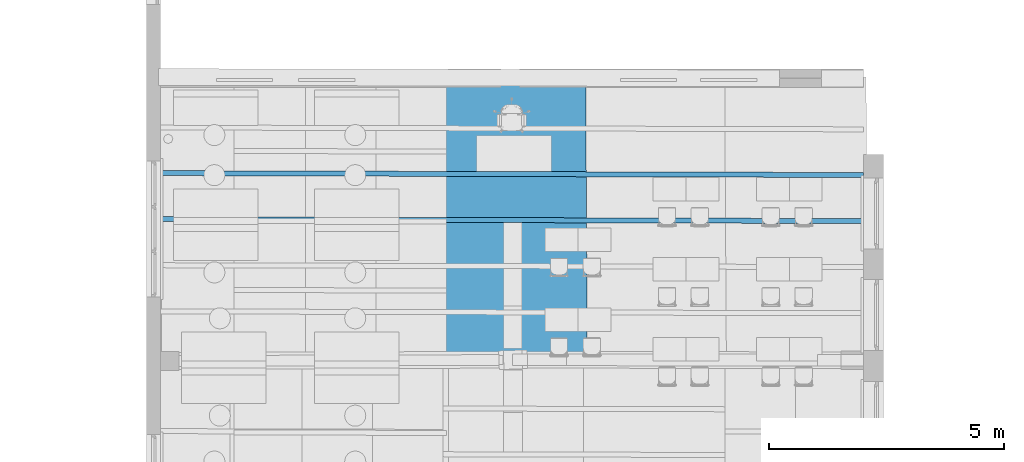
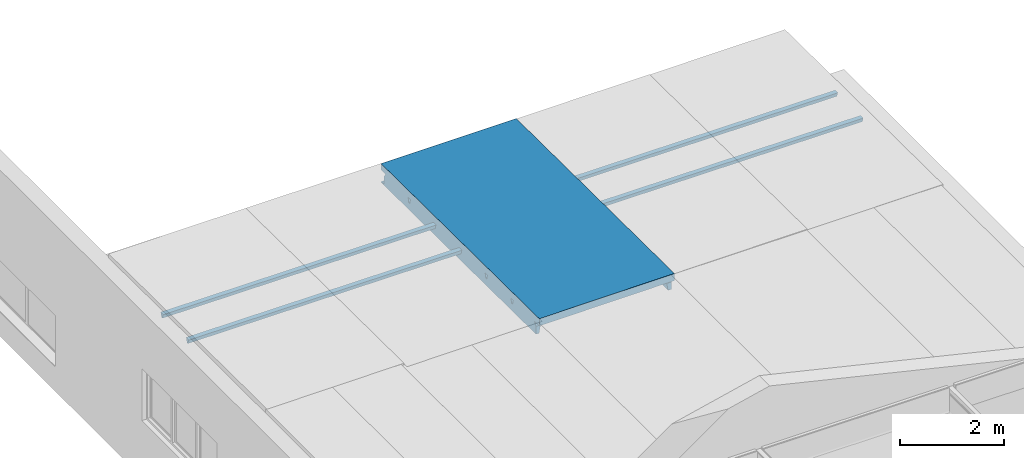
# One storey, part 26 of 153: 3 beams.
"""IFC2X3 building model written with IfcOpenShell, lengths in millimetres."""

import ifcopenshell
import ifcopenshell.guid

model = None  # the IFC model being written
_history = None  # IfcOwnerHistory: only IFC2X3 demands one
_inside = {}  # id of a spatial element -> (the spatial element, [elements in it])
_under = {}  # id of a project, library or spatial element -> (it, [spatial elements below it])
_declared = {}  # id of a project -> (the project, [libraries it declares])
_typed = {}  # id of a type object -> (the type object, [elements of that type])
_made_of = {}  # id of a material, layer set ... -> (it, [elements and type objects made of it])


def new_model(schema):
    """Start an empty IFC model of exactly this schema.

    Asked for "IFC4X3", IfcOpenShell would pick the latest addendum, in which some entities
    have other attributes; the version numbers below select the first issue.
    IFC2X3 requires an IfcOwnerHistory on every rooted entity: one is made here for all.
    """
    global model, _history
    if schema == "IFC4X3":
        model = ifcopenshell.file(schema_version=(4, 3, 0, 0))
    else:
        model = ifcopenshell.file(schema=schema)
    _inside.clear()
    _under.clear()
    _declared.clear()
    _typed.clear()
    _made_of.clear()
    _history = None
    if model.schema == "IFC2X3":
        org = make("IfcOrganization", Name="unknown")
        user = make(
            "IfcPersonAndOrganization",
            ThePerson=make("IfcPerson", FamilyName="unknown"),
            TheOrganization=org,
        )
        app = make(
            "IfcApplication",
            ApplicationDeveloper=org,
            Version="unknown",
            ApplicationFullName="unknown",
            ApplicationIdentifier="unknown",
        )
        _history = make(
            "IfcOwnerHistory",
            OwningUser=user,
            OwningApplication=app,
            ChangeAction="ADDED",
            CreationDate=0,
        )
    return model


def make(cls, **values):
    """One entity of the class cls with the attributes given. An attribute that is None is left unset."""
    return model.create_entity(
        cls, **{name: value for name, value in values.items() if value is not None}
    )


def entity(cls, *values):
    """Any entity or typed value of the class cls, its attributes in the order of the schema. None: left unset."""
    e = model.create_entity(cls)
    for i, value in enumerate(values):
        if value is not None:
            e[i] = value
    return e


def rooted(cls, **values):
    """An entity with a GlobalId (a new one), such as an element, a storey or a relation."""
    return make(cls, GlobalId=ifcopenshell.guid.new(), OwnerHistory=_history, **values)


def si_unit(unit_type, name, prefix=None):
    """IfcSIUnit, for example si_unit("LENGTHUNIT", "METRE", prefix="MILLI")."""
    return make("IfcSIUnit", UnitType=unit_type, Prefix=prefix, Name=name)


def converted_unit(unit_type, name, factor, base, dimensions=None, offset=None):
    """IfcConversionBasedUnit, such as the inch: factor (a typed value) times the base unit."""
    return make(
        "IfcConversionBasedUnit"
        if offset is None
        else "IfcConversionBasedUnitWithOffset",
        ConversionOffset=offset,
        Dimensions=None
        if dimensions is None
        else entity("IfcDimensionalExponents", *dimensions),
        UnitType=unit_type,
        Name=name,
        ConversionFactor=make(
            "IfcMeasureWithUnit", ValueComponent=factor, UnitComponent=base
        ),
    )


def derived_unit(unit_type, elements):
    """IfcDerivedUnit: a product of units, each with its exponent."""
    return make(
        "IfcDerivedUnit",
        Elements=[
            make("IfcDerivedUnitElement", Unit=unit, Exponent=power)
            for unit, power in elements
        ],
        UnitType=unit_type,
    )


def money_unit(currency):
    """IfcMonetaryUnit."""
    return make("IfcMonetaryUnit", Currency=currency)


def assignment(units):
    """IfcUnitAssignment: the units of a project."""
    return None if units is None else make("IfcUnitAssignment", Units=units)


def point(xyz):
    """IfcCartesianPoint."""
    return None if xyz is None else make("IfcCartesianPoint", Coordinates=xyz)


def direction(xyz):
    """IfcDirection."""
    return None if xyz is None else make("IfcDirection", DirectionRatios=xyz)


def frame(location, z_axis=None, x_axis=None):
    """IfcAxis2Placement3D, a coordinate frame: its origin and axes. An axis left out is left unset."""
    return make(
        "IfcAxis2Placement3D",
        Location=point(location),
        Axis=direction(z_axis),
        RefDirection=direction(x_axis),
    )


def origin_with_axes():
    """The frame at (0, 0, 0) with the z axis (0, 0, 1) and the x axis (1, 0, 0) written out."""
    return frame((0.0, 0.0, 0.0), z_axis=(0.0, 0.0, 1.0), x_axis=(1.0, 0.0, 0.0))


def place(relative_to, where):
    """IfcLocalPlacement: puts the frame where relative to a parent placement (None: the world)."""
    return make(
        "IfcLocalPlacement", PlacementRelTo=relative_to, RelativePlacement=where
    )


def context(
    kind, dimensions, precision=None, world=None, true_north=None, identifier=None
):
    """IfcGeometricRepresentationContext, for example the 3D "Model" context."""
    return make(
        "IfcGeometricRepresentationContext",
        ContextIdentifier=identifier,
        ContextType=kind,
        CoordinateSpaceDimension=dimensions,
        Precision=precision,
        WorldCoordinateSystem=world,
        TrueNorth=true_north,
    )


def subcontext(parent, identifier, kind, view, scale=None):
    """IfcGeometricRepresentationSubContext, for example "Body" below "Model"."""
    return make(
        "IfcGeometricRepresentationSubContext",
        ContextIdentifier=identifier,
        ContextType=kind,
        ParentContext=parent,
        TargetScale=scale,
        TargetView=view,
    )


def project(units=None, contexts=None):
    """IfcProject with its units and contexts."""
    return rooted(
        "IfcProject",
        Name="project",
        RepresentationContexts=contexts,
        UnitsInContext=assignment(units),
    )


def spatial(cls, under=None, at=None, **own):
    """A site, building, storey or space (cls), placed at a placement, below another one or the project."""
    s = rooted(cls, ObjectPlacement=at, **own)
    if under is not None:
        _under.setdefault(under.id(), (under, []))[1].append(s)
    return s


def faces_of(points, faces, orient=None, outer=None):
    """IfcFace entities. A face is a list of loops; a loop is a list of indices into points, from 0.

    orient and outer hold one flag for each loop. By default every Orientation is true, the
    first loop of a face is its IfcFaceOuterBound and the others are IfcFaceBound.
    """
    made = []
    for i, loops in enumerate(faces):
        bounds = []
        for j, loop in enumerate(loops):
            is_outer = j == 0 if outer is None else outer[i][j]
            bounds.append(
                make(
                    "IfcFaceOuterBound" if is_outer else "IfcFaceBound",
                    Bound=make("IfcPolyLoop", Polygon=[points[k] for k in loop]),
                    Orientation=True if orient is None else orient[i][j],
                )
            )
        made.append(make("IfcFace", Bounds=bounds))
    return made


def faceted_brep(points, faces, orient=None, outer=None, voids=None):
    """IfcFacetedBrep: a solid bounded by flat faces; with voids (closed shells), ...WithVoids."""
    shared = [point(p) for p in points]
    hull = make("IfcClosedShell", CfsFaces=faces_of(shared, faces, orient, outer))
    if voids is None:
        return make("IfcFacetedBrep", Outer=hull)
    return make(
        "IfcFacetedBrepWithVoids",
        Outer=hull,
        Voids=[
            make(cls, CfsFaces=faces_of(shared, fs, o, b)) for cls, fs, o, b in voids
        ],
    )


def shape(context_of_items, identifier, shape_type, items):
    """IfcShapeRepresentation: the items that make up one representation, for example the "Body"."""
    return make(
        "IfcShapeRepresentation",
        ContextOfItems=context_of_items,
        RepresentationIdentifier=identifier,
        RepresentationType=shape_type,
        Items=items,
    )


def material(Name=None, Category=None):
    """IfcMaterial."""
    return make("IfcMaterial", Name=Name, Category=Category)


def made_of(thing, what):
    """Note that an element or type object is made of a material, layer set ...; save() writes the relation."""
    if what is not None:
        _made_of.setdefault(what.id(), (what, []))[1].append(thing)
    return thing


def type_object(cls, material=None, **own):
    """A type object (cls), such as IfcWallType, which elements share."""
    return made_of(rooted(cls, **own), material)


def element(
    cls,
    number,
    at=None,
    inside=None,
    cuts=None,
    type_object=None,
    material=None,
    context=None,
    identifier="Body",
    shape_type=None,
    held_by="IfcProductDefinitionShape",
    body=None,
    shapes=None,
    **own,
):
    """One element of the class cls, such as IfcWall. Its Tag is "e" and its number.

    at: its placement. inside: the storey or other place that contains it. cuts: it is an
    opening in that element (IfcRelVoidsElement). A single representation is given by context,
    identifier, shape_type and body (its items); several are given by shapes. held_by: the class
    of the entity that holds the representations. save() writes the other relations.
    """
    e = rooted(cls, Tag="e%d" % number, ObjectPlacement=at, **own)
    if body is not None:
        shapes = [shape(context, identifier, shape_type, body)]
    if shapes is not None:
        e.Representation = make(held_by, Representations=shapes)
    if inside is not None:
        _inside.setdefault(inside.id(), (inside, []))[1].append(e)
    if cuts is not None:
        rooted(
            "IfcRelVoidsElement", RelatingBuildingElement=cuts, RelatedOpeningElement=e
        )
    if type_object is not None:
        _typed.setdefault(type_object.id(), (type_object, []))[1].append(e)
    return made_of(e, material)


def aggregate(whole, parts):
    """IfcRelAggregates: a whole, such as a stair, and the parts it consists of."""
    return rooted("IfcRelAggregates", RelatingObject=whole, RelatedObjects=parts)


def save(model, path):
    """Write the relations noted so far, then the file.

    IfcRelAggregates (storeys below a building ...), IfcRelContainedInSpatialStructure (elements
    in a storey), IfcRelDefinesByType, IfcRelAssociatesMaterial and IfcRelDeclares: one each for
    every whole, place, type object, material and project.
    """
    for whole, parts in _under.values():
        aggregate(whole, parts)
    for where, things in _inside.values():
        rooted(
            "IfcRelContainedInSpatialStructure",
            RelatedElements=things,
            RelatingStructure=where,
        )
    for kind, things in _typed.values():
        rooted("IfcRelDefinesByType", RelatedObjects=things, RelatingType=kind)
    for what, things in _made_of.values():
        rooted("IfcRelAssociatesMaterial", RelatedObjects=things, RelatingMaterial=what)
    for by, libraries in _declared.values():
        rooted("IfcRelDeclares", RelatingContext=by, RelatedDefinitions=libraries)
    model.write(path)


model = new_model("IFC2X3")

# Units and contexts
model_context = context("Model", 3, precision=0.01, world=origin_with_axes(), true_north=direction((0.0, 1.0)))
body_context = subcontext(model_context, "Body", "Model", "MODEL_VIEW")
ifc_project = project(units=[si_unit("LENGTHUNIT", "METRE", prefix="MILLI"), si_unit("AREAUNIT", "SQUARE_METRE"), si_unit("VOLUMEUNIT", "CUBIC_METRE"), converted_unit("PLANEANGLEUNIT", "DEGREE", entity("IfcPlaneAngleMeasure", 0.0174532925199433), si_unit("PLANEANGLEUNIT", "RADIAN"), dimensions=[0, 0, 0, 0, 0, 0, 0]), money_unit("EUR"), converted_unit("TIMEUNIT", "Year", entity("IfcTimeMeasure", 31557600.0), si_unit("TIMEUNIT", "SECOND"), dimensions=[0, 0, 1, 0, 0, 0, 0]), si_unit("MASSUNIT", "GRAM", prefix="KILO"), si_unit("THERMODYNAMICTEMPERATUREUNIT", "DEGREE_CELSIUS"), si_unit("LUMINOUSINTENSITYUNIT", "LUMEN"), si_unit("ENERGYUNIT", "JOULE", prefix="MEGA"), derived_unit("THERMALCONDUCTANCEUNIT", [(si_unit("POWERUNIT", "WATT"), 1), (si_unit("LENGTHUNIT", "METRE"), -1), (si_unit("THERMODYNAMICTEMPERATUREUNIT", "KELVIN"), -1)]), derived_unit("SPECIFICHEATCAPACITYUNIT", [(si_unit("ENERGYUNIT", "JOULE"), 1), (si_unit("MASSUNIT", "GRAM", prefix="KILO"), -1), (si_unit("THERMODYNAMICTEMPERATUREUNIT", "KELVIN"), -1)]), derived_unit("MASSDENSITYUNIT", [(si_unit("MASSUNIT", "GRAM", prefix="KILO"), 1), (si_unit("VOLUMEUNIT", "CUBIC_METRE"), -1)])], contexts=[model_context])

# Site, building, storey
site_placement = place(None, frame((0.0, 0.0, 8650.0), z_axis=(0.0, 0.0, 1.0), x_axis=(1.0, 0.0, 0.0)))
site = spatial("IfcSite", under=ifc_project, at=site_placement, Name="43301:001:0844", CompositionType="ELEMENT")
building_placement = place(site_placement, origin_with_axes())
building = spatial("IfcBuilding", under=site, at=building_placement, Name="Kuressaare Ametikooli tuulikute mehaanikute õppekorpus", CompositionType="ELEMENT")
storey_placement = place(building_placement, frame((0.0, 0.0, 4100.0), z_axis=(0.0, 0.0, 1.0), x_axis=(1.0, 0.0, 0.0)))
storey = spatial("IfcBuildingStorey", under=building, at=storey_placement, Name="2.korrus", CompositionType="ELEMENT", Elevation=4100.0)

# Beams
ifc_material = material(Name="GENEERILINE - KONSTRUKTRIOON")
beam_type_1 = type_object("IfcBeamType", Name="Precast Single Tee 2 107 x 102", PredefinedType="NOTDEFINED")
beam_1_placement = place(storey_placement, frame((88256.15780220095, 36024.72507709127, 2805.133663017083), z_axis=(0.0, 0.0, 1.0), x_axis=(-0.002672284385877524, -0.9999964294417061, 0.0)))
element("IfcBeam", 1, at=beam_1_placement, inside=storey, type_object=beam_type_1, material=ifc_material, context=body_context, shape_type="Brep", body=[
    faceted_brep([(45.31502884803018, 0.0, -5.574334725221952), (45.31502884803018, 14968.80935978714, -5.574334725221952), (53.51387546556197, 14968.80935978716, 0.0), (53.51387546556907, 0.0, 0.0), (40.74041549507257, 0.0, -14.37019773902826), (40.74041549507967, 14968.80935978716, -14.37019773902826), (20.00045776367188, 14968.80935978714, -101.9474782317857), (-19.99954223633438, 14968.80935978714, -101.9474782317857), (-40.74046173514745, 14968.80935978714, -14.37000248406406), (-45.31509550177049, 14968.80935978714, -5.574259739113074), (-53.51387546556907, 14968.80935978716, 0.0), (-53.51387546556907, 0.0, 0.0), (-45.31509550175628, 0.0, -5.574259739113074), (-40.74046173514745, 0.0, -14.37000248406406), (-19.99954223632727, 0.0, -101.9474782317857), (20.00045776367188, 0.0, -101.9474782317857)], [[[0, 1, 2, 3]], [[4, 5, 1, 0]], [[2, 1, 5, 6, 7, 8, 9, 10]], [[3, 2, 10, 11]], [[4, 0, 3, 11, 12, 13, 14, 15]], [[15, 6, 5, 4]], [[14, 7, 6, 15]], [[13, 8, 7, 14]], [[12, 9, 8, 13]], [[11, 10, 9, 12]]]),
])
beam_2_placement = place(storey_placement, frame((88256.15780220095, 35043.81523054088, 2805.133663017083), z_axis=(0.0, 0.0, 1.0), x_axis=(-0.002672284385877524, -0.9999964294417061, 0.0)))
element("IfcBeam", 2, at=beam_2_placement, inside=storey, type_object=beam_type_1, material=ifc_material, context=body_context, shape_type="Brep", body=[
    faceted_brep([(45.31502884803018, 0.0, -5.574334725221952), (45.31502884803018, 14968.80935978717, -5.574334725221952), (53.51387546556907, 14968.80935978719, 0.0), (53.51387546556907, 0.0, 0.0), (40.74041549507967, 0.0, -14.37019773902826), (40.74041549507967, 14968.80935978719, -14.37019773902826), (20.00045776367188, 14968.80935978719, -101.9474782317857), (-19.99954223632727, 14968.80935978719, -101.9474782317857), (-40.74046173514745, 14968.80935978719, -14.37000248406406), (-45.31509550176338, 14968.80935978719, -5.574259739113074), (-53.51387546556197, 14968.80935978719, 0.0), (-53.51387546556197, 0.0, 0.0), (-45.31509550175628, 0.0, -5.574259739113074), (-40.74046173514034, 0.0, -14.37000248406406), (-19.99954223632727, 0.0, -101.9474782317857), (20.00045776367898, 0.0, -101.9474782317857)], [[[0, 1, 2, 3]], [[4, 5, 1, 0]], [[2, 1, 5, 6, 7, 8, 9, 10]], [[3, 2, 10, 11]], [[4, 0, 3, 11, 12, 13, 14, 15]], [[15, 6, 5, 4]], [[14, 7, 6, 15]], [[13, 8, 7, 14]], [[12, 9, 8, 13]], [[11, 10, 9, 12]]]),
])
beam_type_2 = type_object("IfcBeamType", Name="Precast Double Tee 4 3012 x 440", PredefinedType="NOTDEFINED")
beam_3_placement = place(storey_placement, frame((95804.2723981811, 38067.25329041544, 2975.0), z_axis=(0.0, 0.0, 1.0), x_axis=(-0.9999823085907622, -0.005948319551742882, 0.0)))
element("IfcBeam", 3, at=beam_3_placement, inside=storey, type_object=beam_type_2, material=ifc_material, context=body_context, shape_type="Brep", body=[
    faceted_brep([(1434.907617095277, 5903.101737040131, -434.9999999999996), (1434.907617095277, 5902.914787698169, -434.9999999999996), (1435.817226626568, 5902.911879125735, -440.0001340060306), (1435.817226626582, 0.0, -440.0001340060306), (1432.194608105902, 0.0, -420.0865585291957), (1432.194608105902, 109.0732026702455, -420.0865585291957), (1399.892011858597, 109.3363521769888, -242.5188171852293), (1394.00150495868, 127.775021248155, -210.1386333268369), (1394.00150495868, 1043.664185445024, -210.1386333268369), (1405.221270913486, 1058.174499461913, -271.8138152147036), (1405.221270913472, 1098.175985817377, -271.8138152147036), (1394.00150495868, 1112.879103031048, -210.1386333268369), (1394.001504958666, 2016.143467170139, -210.1386333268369), (1405.221270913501, 2030.653781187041, -271.8138152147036), (1405.221270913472, 2070.655267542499, -271.8138152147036), (1394.00150495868, 2085.358384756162, -210.1386333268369), (1394.00150495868, 2997.086260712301, -210.1386333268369), (1405.221270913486, 3011.596574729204, -271.8138152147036), (1405.221270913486, 3051.598061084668, -271.8138152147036), (1394.001504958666, 3066.301178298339, -210.1386333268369), (1394.001504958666, 3977.655173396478, -210.1386333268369), (1405.221270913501, 3992.165487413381, -271.8138152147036), (1405.221270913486, 4032.166973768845, -271.8138152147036), (1394.00150495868, 4046.870090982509, -210.1386333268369), (1394.00150495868, 4960.381257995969, -210.1386333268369), (1405.221270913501, 4974.891572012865, -271.8138152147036), (1405.221270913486, 5014.89305836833, -271.8138152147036), (1394.001504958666, 5029.596175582, -210.1386333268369), (1394.001504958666, 5871.532539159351, -210.1386333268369), (1396.938809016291, 5883.968766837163, -226.2850273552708), (1402.787815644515, 5903.176552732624, -258.4370837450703), (1505.817226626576, 5902.688046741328, -434.9999999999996), (1505.817226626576, 5902.935380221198, -434.9999999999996), (1505.817226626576, 5902.688046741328, -440.0001340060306), (1505.817226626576, 0.0, -440.0001340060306), (1505.817226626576, 0.0, -420.0865585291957), (1505.817226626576, 108.474669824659, -420.0865585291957), (1505.81722662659, 108.4752075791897, -242.5188171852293), (1505.817226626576, 134.0680429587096, -197.4581574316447), (1389.347021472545, 135.0149156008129, -197.4581574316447), (1387.903755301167, 138.0630517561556, -193.5261847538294), (1387.903755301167, 1039.782291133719, -193.5261847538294), (1505.817226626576, 1036.565586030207, -184.2363394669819), (1505.81722662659, 1057.307276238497, -271.8138152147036), (1379.592022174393, 1037.653755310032, -184.2363394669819), (1505.817226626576, 1097.308762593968, -271.8138152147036), (1505.81722662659, 1118.049490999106, -184.2365347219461), (1379.592196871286, 1119.137658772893, -184.2365347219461), (1387.903755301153, 1116.865959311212, -193.5261847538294), (1387.903755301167, 2012.26157285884, -193.5261847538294), (1379.592022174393, 2010.133037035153, -184.2363394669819), (1505.81722662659, 2009.044867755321, -184.2363394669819), (1505.81722662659, 2029.786557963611, -271.8138152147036), (1505.817226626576, 2069.788044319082, -271.8138152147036), (1387.903755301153, 2089.345241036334, -193.5261847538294), (1505.81722662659, 2090.528772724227, -184.2365347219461), (1379.5921968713, 2091.616940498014, -184.2365347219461), (1387.903755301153, 2993.204366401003, -193.5261847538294), (1379.592022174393, 2991.075830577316, -184.2363394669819), (1505.817226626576, 2989.987661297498, -184.2363394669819), (1505.81722662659, 3010.729351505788, -271.8138152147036), (1505.81722662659, 3050.730837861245, -271.8138152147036), (1379.5921968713, 3072.559734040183, -184.2365347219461), (1387.903755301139, 3070.288034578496, -193.5261847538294), (1505.817226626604, 3071.471566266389, -184.2365347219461), (1387.903755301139, 3973.773279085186, -193.5261847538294), (1379.592022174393, 3971.6447432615, -184.2363394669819), (1505.81722662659, 3970.556573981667, -184.2363394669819), (1505.81722662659, 3991.298264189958, -271.8138152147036), (1505.81722662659, 4031.299750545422, -271.8138152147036), (1505.81722662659, 4052.040478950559, -184.2365347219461), (1379.592196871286, 4053.128646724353, -184.2365347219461), (1387.903755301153, 4050.85694726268, -193.5261847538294), (1387.903755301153, 4956.499363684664, -193.5261847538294), (1379.592022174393, 4954.370827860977, -184.2363394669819), (1505.817226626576, 4953.282658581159, -184.2363394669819), (1505.81722662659, 4974.024348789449, -271.8138152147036), (1505.817226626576, 5014.025835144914, -271.8138152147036), (1505.81722662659, 5034.766563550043, -184.2365347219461), (1379.592196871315, 5035.85473132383, -184.2365347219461), (1387.903755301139, 5033.583031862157, -193.5261847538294), (1387.903755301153, 5858.103905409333, -193.5261847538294), (1389.037136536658, 5861.121449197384, -196.6139201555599), (1505.81722662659, 5860.84747837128, -196.6139201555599), (1505.81722662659, 5883.713333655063, -226.2850273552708), (1505.817226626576, 5902.934841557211, -258.4370837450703), (1505.817226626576, 5834.653995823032, -169.8347433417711), (1505.817226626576, 6030.788106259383, -169.8347433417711), (1505.817226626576, 6030.788106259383, 0.0), (1505.817226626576, 0.0, 0.0), (1505.817226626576, 0.0, -144.9098486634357), (1505.817226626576, 176.7044764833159, -144.9098486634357), (1505.817226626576, 165.7415663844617, -156.4427065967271), (1505.81722662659, 4948.707854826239, -175.4405967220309), (1505.817226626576, 4940.5087702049, -169.8663369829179), (1505.817226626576, 5047.540498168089, -169.8663369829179), (1505.817226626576, 5039.341346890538, -175.4406717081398), (1505.817226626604, 3957.782685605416, -169.8663369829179), (1505.81722662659, 4064.814413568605, -169.8663369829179), (1505.81722662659, 4056.615262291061, -175.4406717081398), (1505.817226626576, 3965.981770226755, -175.4405967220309), (1505.81722662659, 3084.245500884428, -169.8663369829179), (1505.81722662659, 3076.046349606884, -175.4406717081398), (1505.81722662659, 2985.412857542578, -175.4405967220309), (1505.81722662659, 2977.213772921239, -169.8663369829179), (1505.81722662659, 2095.103556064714, -175.4406717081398), (1505.817226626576, 2004.470064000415, -175.4405967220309), (1505.81722662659, 1996.270979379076, -169.8663369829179), (1505.81722662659, 2103.302707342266, -169.8663369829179), (1505.81722662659, 1031.990782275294, -175.4405967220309), (1505.81722662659, 1023.791697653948, -169.8663369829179), (1505.81722662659, 1130.823425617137, -169.8663369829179), (1505.81722662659, 1122.624274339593, -175.4406717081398), (-1388.022650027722, 157.5942126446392, -197.4581574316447), (-1377.569867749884, 167.8461432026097, -184.0724353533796), (-1360.128065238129, 175.8642656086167, -173.505793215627), (-1340.070370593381, 178.5447938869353, -169.8234995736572), (1342.636896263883, 155.8730216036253, -170.9398142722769), (1360.269640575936, 154.5732979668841, -172.4372542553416), (1376.104194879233, 148.3432890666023, -180.3380699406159), (-1505.817226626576, 190.2253755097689, -156.4427065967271), (-1505.817226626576, 158.5518520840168, -197.4581574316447), (1376.104194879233, 1035.656272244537, -180.3380699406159), (1366.288840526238, 1033.193636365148, -175.4405967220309), (1376.104194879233, 1121.195344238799, -180.3380699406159), (1366.288990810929, 1123.827127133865, -175.4406717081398), (1376.104194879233, 2008.135553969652, -180.3380699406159), (1366.288840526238, 2005.672918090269, -175.4405967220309), (1366.288990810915, 2096.306408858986, -175.4406717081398), (1376.104194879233, 2093.674625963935, -180.3380699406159), (1376.104194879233, 2989.078347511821, -180.3380699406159), (1366.288840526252, 2986.615711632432, -175.4405967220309), (1376.104194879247, 3074.61741950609, -180.3380699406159), (1376.104194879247, 3969.647260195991, -180.3380699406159), (1366.288990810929, 3077.249202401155, -175.4406717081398), (1366.288840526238, 3967.184624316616, -175.4405967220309), (1366.288990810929, 4057.818115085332, -175.4406717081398), (1376.104194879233, 4055.186332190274, -180.3380699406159), (1376.104194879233, 4952.373344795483, -180.3380699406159), (1366.288840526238, 4949.910708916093, -175.4405967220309), (1366.288990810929, 5040.544199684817, -175.4406717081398), (1376.104194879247, 5037.912416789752, -180.3380699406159), (1376.104194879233, 5845.231913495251, -180.3380699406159), (1342.636896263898, 5836.117725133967, -170.9398142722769), (76.76410013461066, 5838.57228605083, -170.4130656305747), (76.76277304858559, 5838.006615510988, -169.8347433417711), (1360.269640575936, 5837.541047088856, -172.4372542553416), (77.29355510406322, 6030.788106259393, -169.8347433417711), (77.18003974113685, 6015.866582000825, -169.8347433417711), (-1505.81722662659, 6030.788106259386, -169.8235593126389), (-1505.81722662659, 6030.788106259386, 0.0), (77.29355510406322, 6030.788106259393, -169.8235593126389), (-1505.817226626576, 8.957240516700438, 0.0), (2.700062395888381e-10, 0.0, 0.0), (-7.602807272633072e-09, 0.0, -144.9098486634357), (-1505.817226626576, 8.957240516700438, -144.9098486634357), (-1505.817226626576, 201.1882856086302, -144.9098486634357), (1360.26964057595, 4945.545033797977, -172.4372542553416), (1342.636896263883, 4943.494483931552, -170.9398142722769), (-1237.124284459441, 4964.155273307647, -169.8663369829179), (-1237.124284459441, 5071.187001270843, -169.8663369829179), (1342.636896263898, 5047.368301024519, -170.9398142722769), (1360.26964057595, 5045.013744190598, -172.4372542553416), (-1237.124284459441, 4088.460916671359, -169.8663369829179), (-1237.124284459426, 3981.429188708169, -169.8663369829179), (1342.636896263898, 4064.642216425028, -170.9398142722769), (1360.26964057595, 4062.287659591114, -172.4372542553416), (1360.26964057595, 3962.818949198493, -172.4372542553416), (1342.636896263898, 3960.768399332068, -170.9398142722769), (-1237.124284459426, 3107.892003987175, -169.8663369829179), (1342.636896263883, 3084.073303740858, -170.9398142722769), (1360.26964057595, 3081.718746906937, -172.4372542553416), (1342.636896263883, 2980.199486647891, -170.9398142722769), (-1237.124284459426, 3000.860276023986, -169.8663369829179), (1360.26964057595, 2982.250036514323, -172.4372542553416), (-1237.124284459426, 2019.91748248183, -169.8663369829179), (1360.26964057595, 2001.307242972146, -172.4372542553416), (1342.636896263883, 1999.256693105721, -170.9398142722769), (-1237.124284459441, 2126.949210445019, -169.8663369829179), (1342.636896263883, 2103.130510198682, -170.9398142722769), (1360.26964057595, 2100.775953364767, -172.4372542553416), (1360.269640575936, 1028.827961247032, -172.4372542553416), (1342.636896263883, 1026.777411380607, -170.9398142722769), (-1237.124284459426, 1047.438200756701, -169.8663369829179), (-1237.124284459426, 1154.469928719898, -169.8663369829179), (1360.26964057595, 1128.296671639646, -172.4372542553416), (1342.636896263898, 1130.651228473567, -170.9398142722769), (-1390.121046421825, 156.0850480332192, -200.145341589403), (-1390.121046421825, 1065.2989113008, -200.145341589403), (-1377.697858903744, 1061.423953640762, -184.2363394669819), (-1377.569867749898, 1061.337601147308, -184.0724353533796), (-1360.128065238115, 1053.851813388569, -173.505793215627), (-1363.321744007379, 1056.725215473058, -175.4405967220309), (-1340.303708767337, 1048.327695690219, -169.8663369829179), (-1340.303708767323, 1155.359423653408, -169.8663369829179), (-1360.128065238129, 1150.17714028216, -173.505793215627), (-1360.128065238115, 2026.331095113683, -173.505793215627), (-1340.303708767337, 2020.806977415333, -169.8663369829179), (-1340.303708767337, 2127.83870537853, -169.8663369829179), (-1360.128065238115, 2122.656422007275, -173.505793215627), (-1360.128065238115, 3007.273888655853, -173.505793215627), (-1340.303708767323, 3001.749770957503, -169.8663369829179), (-1340.303708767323, 3108.781498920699, -169.8663369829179), (-1360.128065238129, 3103.599215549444, -173.505793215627), (-1360.128065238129, 3987.842801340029, -173.505793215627), (-1340.303708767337, 3982.318683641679, -169.8663369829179), (-1340.303708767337, 4089.350411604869, -169.8663369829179), (-1360.128065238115, 4084.168128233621, -173.505793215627), (-1360.128065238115, 4970.5688859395, -173.505793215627), (-1340.303708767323, 4965.04476824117, -169.8663369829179), (-1340.303708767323, 5072.07649620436, -169.8663369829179), (-1360.128065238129, 5066.894212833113, -173.505793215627), (-1360.128065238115, 5852.489179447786, -173.505793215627), (-1340.070370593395, 5848.836345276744, -169.8235593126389), (75.83167511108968, 5838.624885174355, -170.4126776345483), (77.18003974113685, 6015.866582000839, -170.4132387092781), (-1505.81722662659, 5850.097263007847, -169.8235593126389), (-1505.81722662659, 5861.060128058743, -181.3564172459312), (-1505.81722662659, 5892.733521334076, -222.3718680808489), (-1505.81722662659, 5918.32625154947, -267.4325278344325), (-1505.81722662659, 5918.326774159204, -440.0001340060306), (-1505.817226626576, 0.0, -440.0001340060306), (-1505.817226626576, 0.0, -420.0865585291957), (-1505.817226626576, 132.9584789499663, -420.0865585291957), (-1505.817226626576, 132.9590167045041, -242.5188171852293), (-1505.817226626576, 5060.729429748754, -184.2365347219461), (-1505.81722662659, 5065.304213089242, -175.4406717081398), (-1505.817226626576, 5073.503364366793, -169.8663369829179), (-1505.817226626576, 4966.471636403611, -169.8663369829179), (-1505.817226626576, 4974.670721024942, -175.4405967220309), (-1505.817226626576, 4979.245524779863, -184.2363394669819), (-1505.81722662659, 4999.987214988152, -271.8138152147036), (-1505.817226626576, 5039.98870134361, -271.8138152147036), (-1505.817226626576, 4082.578128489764, -175.4406717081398), (-1505.81722662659, 4090.777279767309, -169.8663369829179), (-1505.81722662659, 3983.74555180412, -169.8663369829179), (-1505.81722662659, 3991.944636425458, -175.4405967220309), (-1505.81722662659, 3996.519440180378, -184.2363394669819), (-1505.817226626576, 4017.261130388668, -271.8138152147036), (-1505.817226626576, 4057.262616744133, -271.8138152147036), (-1505.817226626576, 4078.003345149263, -184.2365347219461), (-1505.817226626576, 3110.208367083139, -169.8663369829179), (-1505.817226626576, 3003.17663911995, -169.8663369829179), (-1505.817226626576, 3011.375723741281, -175.4405967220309), (-1505.817226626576, 3015.950527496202, -184.2363394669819), (-1505.81722662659, 3036.692217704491, -271.8138152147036), (-1505.817226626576, 3076.693704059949, -271.8138152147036), (-1505.817226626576, 3097.434432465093, -184.2365347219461), (-1505.81722662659, 3102.009215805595, -175.4406717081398), (-1505.817226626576, 2022.23384557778, -169.8663369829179), (-1505.817226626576, 2030.432930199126, -175.4405967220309), (-1505.817226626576, 2035.007733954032, -184.2363394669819), (-1505.817226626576, 2055.749424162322, -271.8138152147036), (-1505.81722662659, 2095.750910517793, -271.8138152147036), (-1505.81722662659, 2116.491638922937, -184.2365347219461), (-1505.817226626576, 2121.066422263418, -175.4406717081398), (-1505.817226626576, 2129.265573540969, -169.8663369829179), (-1505.817226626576, 1057.95364847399, -175.4405967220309), (-1505.817226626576, 1062.528452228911, -184.2363394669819), (-1505.817226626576, 1083.2701424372, -271.8138152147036), (-1505.81722662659, 1123.271628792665, -271.8138152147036), (-1505.81722662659, 1144.012357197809, -184.2365347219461), (-1505.817226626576, 1148.587140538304, -175.4406717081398), (-1505.817226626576, 1156.786291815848, -169.8663369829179), (-1505.817226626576, 1049.754563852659, -169.8663369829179), (-1399.746208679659, 132.0966867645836, -242.5188171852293), (-1396.144696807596, 145.0683931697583, -219.628309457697), (75.82741514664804, 5838.064915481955, -169.8235593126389), (-1396.144696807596, 1069.965151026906, -219.628309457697), (-1404.355380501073, 1082.395454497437, -271.8138152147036), (-1363.321867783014, 1147.358708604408, -175.4406717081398), (-1377.569867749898, 2033.816882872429, -184.0724353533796), (-1363.321744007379, 2029.204497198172, -175.4405967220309), (-1377.569867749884, 1142.992104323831, -184.0724353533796), (-1363.321867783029, 2119.837990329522, -175.4406717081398), (-1377.569867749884, 2115.471386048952, -184.0724353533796), (-1377.569867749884, 3014.759676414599, -184.0724353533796), (-1363.321744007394, 3010.147290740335, -175.4405967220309), (-1363.321867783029, 3100.780783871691, -175.4406717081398), (-1377.569867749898, 3096.414179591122, -184.0724353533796), (-1377.569867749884, 3995.328589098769, -184.0724353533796), (-1363.321744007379, 3990.716203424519, -175.4405967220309), (-1363.321867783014, 4081.349696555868, -175.4406717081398), (-1377.569867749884, 4076.983092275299, -184.0724353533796), (-1377.569867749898, 4978.05467369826, -184.0724353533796), (-1363.321744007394, 4973.442288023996, -175.4405967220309), (-1363.321867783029, 5064.075781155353, -175.4406717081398), (-1377.569867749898, 5059.709176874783, -184.0724353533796), (-1377.569867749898, 5862.181880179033, -184.0724353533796), (-1373.086678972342, 5860.050381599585, -181.3564172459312), (-1390.121046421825, 5874.689355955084, -200.145341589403), (-1396.144696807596, 5889.780528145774, -219.628309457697), (-1396.576358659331, 5891.902472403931, -222.3718680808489), (-1403.666044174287, 5917.549137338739, -267.4325278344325), (-1430.817223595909, 5917.756212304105, -440.0001340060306), (-1430.817223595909, 0.0, -440.0001340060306), (-1427.684091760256, 0.0, -420.0865585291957), (-1427.684091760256, 132.323276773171, -420.0865585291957), (-1377.698011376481, 5059.624932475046, -184.2365347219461), (-1377.697858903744, 4978.141026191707, -184.2363394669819), (-1396.144696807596, 4986.682223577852, -219.628309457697), (-1404.355380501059, 4999.112527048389, -271.8138152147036), (-1390.121046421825, 4982.015983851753, -200.145341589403), (-1404.355380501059, 5039.114013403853, -271.8138152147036), (-1390.121046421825, 5055.964383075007, -200.145341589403), (-1396.144696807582, 5051.402205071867, -219.628309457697), (-1377.697858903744, 3995.414941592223, -184.2363394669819), (-1404.355380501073, 4016.386442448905, -271.8138152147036), (-1390.121046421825, 3999.289899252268, -200.145341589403), (-1396.14469680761, 4003.956138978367, -219.628309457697), (-1404.355380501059, 4056.387928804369, -271.8138152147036), (-1377.698011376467, 4076.898847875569, -184.2365347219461), (-1396.144696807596, 4068.676120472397, -219.628309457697), (-1390.121046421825, 4073.238298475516, -200.145341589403), (-1377.697858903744, 3014.846028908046, -184.2363394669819), (-1390.121046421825, 3018.720986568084, -200.145341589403), (-1396.144696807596, 3023.387226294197, -219.628309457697), (-1404.355380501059, 3035.817529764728, -271.8138152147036), (-1404.355380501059, 3075.819016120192, -271.8138152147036), (-1396.144696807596, 3088.107207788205, -219.628309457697), (-1390.121046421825, 3092.669385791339, -200.145341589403), (-1377.698011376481, 3096.329935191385, -184.2365347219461), (-1377.697858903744, 2033.903235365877, -184.2363394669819), (-1390.121046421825, 2037.778193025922, -200.145341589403), (-1396.144696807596, 2042.444432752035, -219.628309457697), (-1404.355380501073, 2054.874736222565, -271.8138152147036), (-1404.355380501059, 2094.876222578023, -271.8138152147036), (-1396.144696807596, 2107.16441424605, -219.628309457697), (-1390.121046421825, 2111.72659224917, -200.145341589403), (-1377.698011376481, 2115.387141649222, -184.2365347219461), (-1404.355380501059, 1122.396940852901, -271.8138152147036), (-1396.14469680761, 1134.685132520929, -219.628309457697), (-1390.121046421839, 1139.247310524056, -200.145341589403), (-1377.698011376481, 1142.907859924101, -184.2365347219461)], [[[0, 1, 2, 3, 4, 5, 6, 7, 8, 9, 10, 11, 12, 13, 14, 15, 16, 17, 18, 19, 20, 21, 22, 23, 24, 25, 26, 27, 28, 29, 30]], [[31, 1, 0, 32]], [[33, 2, 1, 31]], [[3, 2, 33, 34]], [[4, 3, 34, 35]], [[4, 35, 36, 5]], [[5, 36, 37, 6]], [[38, 39, 7, 6, 37]], [[8, 7, 39, 40, 41]], [[42, 43, 9, 8, 41, 44]], [[10, 9, 43, 45]], [[11, 10, 45, 46, 47, 48]], [[11, 48, 49, 12]], [[50, 51, 52, 13, 12, 49]], [[53, 14, 13, 52]], [[54, 15, 14, 53, 55, 56]], [[16, 15, 54, 57]], [[57, 58, 59, 60, 17, 16]], [[60, 61, 18, 17]], [[62, 63, 19, 18, 61, 64]], [[65, 20, 19, 63]], [[20, 65, 66, 67, 68, 21]], [[21, 68, 69, 22]], [[70, 71, 72, 23, 22, 69]], [[72, 73, 24, 23]], [[25, 24, 73, 74, 75, 76]], [[26, 25, 76, 77]], [[77, 78, 79, 80, 27, 26]], [[81, 82, 28, 27, 80]], [[82, 83, 84, 29, 28]], [[85, 30, 29, 84]], [[85, 32, 0, 30]], [[33, 31, 32, 85, 84, 83, 86, 87, 88, 89, 90, 91, 92, 38, 37, 36, 35, 34], [93, 94, 95, 96, 78, 77, 76, 75], [97, 98, 99, 70, 69, 68, 67, 100], [101, 102, 64, 61, 60, 59, 103, 104], [105, 55, 53, 52, 51, 106, 107, 108], [46, 45, 43, 42, 109, 110, 111, 112]], [[113, 114, 115, 116, 117, 118, 119, 40, 39, 38, 92, 120, 121]], [[41, 40, 119, 122, 44]], [[123, 109, 42, 44, 122]], [[124, 47, 46, 112, 125]], [[126, 50, 49, 48, 47, 124]], [[126, 127, 106, 51, 50]], [[128, 129, 56, 55, 105]], [[129, 130, 58, 57, 54, 56]], [[58, 130, 131, 103, 59]], [[62, 132, 133, 66, 65, 63]], [[102, 134, 132, 62, 64]], [[67, 66, 133, 135, 100]], [[70, 99, 136, 137, 71]], [[72, 71, 137, 138, 74, 73]], [[93, 75, 74, 138, 139]], [[79, 78, 96, 140, 141]], [[142, 81, 80, 79, 141]], [[143, 144, 145, 86, 83, 82, 81, 142, 146]], [[147, 87, 86, 145, 148]], [[149, 150, 88, 87, 147, 151]], [[150, 152, 153, 89, 88]], [[90, 89, 153, 154]], [[91, 90, 154, 155, 156]], [[120, 92, 91, 156]], [[139, 157, 158, 159, 94, 93]], [[159, 160, 95, 94]], [[96, 95, 160, 161, 162, 140]], [[163, 98, 97, 164]], [[98, 163, 165, 166, 136, 99]], [[167, 168, 164, 97, 100, 135]], [[169, 170, 171, 134, 102, 101]], [[172, 173, 104, 103, 131, 174]], [[101, 104, 173, 169]], [[175, 107, 106, 127, 176, 177]], [[107, 175, 178, 108]], [[179, 180, 128, 105, 108, 178]], [[110, 109, 123, 181, 182, 183]], [[183, 184, 111, 110]], [[185, 125, 112, 111, 184, 186]], [[114, 113, 187, 188, 189, 190]], [[191, 115, 114, 190, 192]], [[116, 115, 191, 193, 194, 195, 196, 197, 198, 199, 200, 201, 202, 203, 204, 205, 206, 207, 208, 209, 210, 211, 212, 213]], [[175, 177, 186, 184, 183, 182, 117, 116, 213, 214, 215, 144, 143, 161, 160, 159, 158, 165, 163, 164, 168, 170, 169, 173, 172, 179, 178]], [[182, 181, 118, 117]], [[122, 119, 118, 181, 123]], [[121, 120, 156, 155, 152, 150, 149, 216, 217, 218, 219, 220, 221, 222, 223, 224], [225, 226, 227, 228, 229, 230, 231, 232], [233, 234, 235, 236, 237, 238, 239, 240], [241, 242, 243, 244, 245, 246, 247, 248], [249, 250, 251, 252, 253, 254, 255, 256], [257, 258, 259, 260, 261, 262, 263, 264]], [[224, 265, 266, 187, 113, 121]], [[176, 127, 126, 124, 125, 185]], [[180, 174, 131, 130, 129, 128]], [[134, 171, 167, 135, 133, 132]], [[137, 136, 166, 157, 139, 138]], [[146, 142, 141, 140, 162]], [[144, 215, 148, 145]], [[162, 161, 143, 146]], [[267, 151, 147, 148, 215, 214]], [[216, 149, 151, 267, 213]], [[153, 152, 155, 154]], [[165, 158, 157, 166]], [[168, 167, 171, 170]], [[174, 180, 179, 172]], [[185, 186, 177, 176]], [[268, 188, 187, 266]], [[189, 188, 268, 269, 259, 258]], [[257, 192, 190, 189, 258]], [[264, 193, 191, 192, 257]], [[264, 263, 194, 193]], [[262, 270, 195, 194, 263]], [[271, 272, 196, 195, 270, 273]], [[250, 249, 197, 196, 272]], [[197, 249, 256, 198]], [[256, 255, 274, 199, 198]], [[275, 276, 277, 200, 199, 274]], [[277, 243, 242, 201, 200]], [[202, 201, 242, 241]], [[202, 241, 248, 278, 203]], [[278, 279, 280, 281, 204, 203]], [[204, 281, 236, 235, 205]], [[234, 206, 205, 235]], [[207, 206, 234, 233, 282]], [[207, 282, 283, 284, 285, 208]], [[209, 208, 285, 229, 228]], [[228, 227, 210, 209]], [[286, 211, 210, 227, 226]], [[212, 211, 286, 287, 288, 289]], [[217, 216, 213, 212, 289]], [[267, 214, 213]], [[290, 291, 292, 218, 217, 289, 288]], [[292, 293, 219, 218]], [[293, 294, 220, 219]], [[295, 221, 220, 294]], [[222, 221, 295, 296]], [[222, 296, 297, 223]], [[223, 297, 265, 224]], [[298, 287, 286, 226, 225]], [[285, 284, 299, 230, 229]], [[300, 301, 231, 230, 299, 302]], [[232, 231, 301, 303]], [[304, 298, 225, 232, 303, 305]], [[280, 306, 237, 236, 281]], [[307, 238, 237, 306, 308, 309]], [[238, 307, 310, 239]], [[311, 240, 239, 310, 312, 313]], [[283, 282, 233, 240, 311]], [[314, 244, 243, 277, 276]], [[245, 244, 314, 315, 316, 317]], [[317, 318, 246, 245]], [[247, 246, 318, 319, 320, 321]], [[278, 248, 247, 321, 279]], [[251, 250, 272, 271, 322]], [[251, 322, 323, 324, 325, 252]], [[326, 253, 252, 325]], [[253, 326, 327, 328, 329, 254]], [[255, 254, 329, 275, 274]], [[260, 259, 269, 330]], [[330, 331, 332, 333, 261, 260]], [[261, 333, 273, 270, 262]], [[325, 324, 331, 330, 269, 268, 266, 265, 297, 296, 295, 294, 293, 292, 291, 305, 303, 301, 300, 312, 310, 307, 309, 319, 318, 317, 316, 327, 326]], [[323, 322, 271, 273, 333, 332]], [[328, 315, 314, 276, 275, 329]], [[321, 320, 308, 306, 280, 279]], [[283, 311, 313, 302, 299, 284]], [[290, 288, 287, 298, 304]], [[304, 305, 291, 290]], [[312, 300, 302, 313]], [[309, 308, 320, 319]], [[315, 328, 327, 316]], [[332, 331, 324, 323]]]),
])

save(model, "model.ifc")
